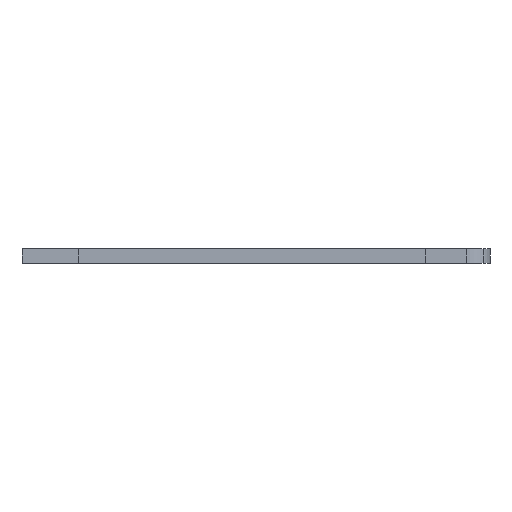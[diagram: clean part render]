
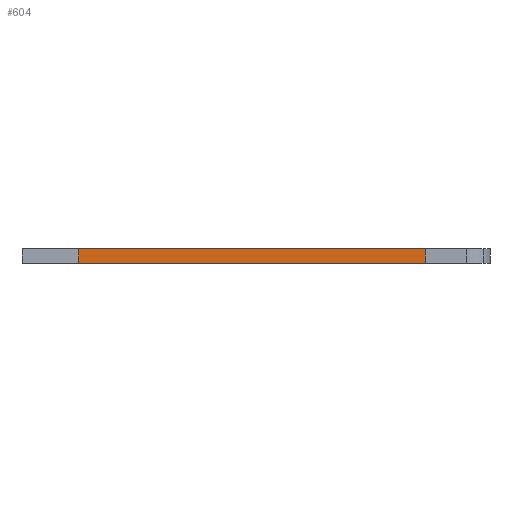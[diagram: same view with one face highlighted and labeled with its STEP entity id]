
A CAD part, left-side view. The second image highlights one B-rep face of the part: STEP entity #604.
In plain terms, the highlighted planar face has unit normal (-1, 0, 0).
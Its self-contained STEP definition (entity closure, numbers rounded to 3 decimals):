
#508=CARTESIAN_POINT('',(0.254,34.66,-1.219));
#509=VERTEX_POINT('',#508);
#518=CARTESIAN_POINT('',(0.254,34.66,0.0));
#519=VERTEX_POINT('',#518);
#520=CARTESIAN_POINT('',(0.254,34.66,0.0));
#521=DIRECTION('',(0.0,0.0,-1.0));
#522=VECTOR('',#521,1.219);
#523=LINE('',#520,#522);
#524=EDGE_CURVE('',#519,#509,#523,.T.);
#550=CARTESIAN_POINT('',(0.254,5.45,-1.219));
#551=VERTEX_POINT('',#550);
#566=CARTESIAN_POINT('',(0.254,5.45,0.0));
#567=VERTEX_POINT('',#566);
#574=CARTESIAN_POINT('',(0.254,5.45,0.0));
#575=DIRECTION('',(0.0,0.0,-1.0));
#576=VECTOR('',#575,1.219);
#577=LINE('',#574,#576);
#578=EDGE_CURVE('',#567,#551,#577,.T.);
#583=CARTESIAN_POINT('',(0.254,5.45,0.0));
#584=DIRECTION('',(1.0,0.0,0.0));
#585=DIRECTION('',(0.0,0.0,-1.0));
#586=AXIS2_PLACEMENT_3D('',#583,#584,#585);
#587=PLANE('',#586);
#588=CARTESIAN_POINT('',(0.254,5.45,-1.219));
#589=DIRECTION('',(0.0,1.0,0.0));
#590=VECTOR('',#589,29.21);
#591=LINE('',#588,#590);
#592=EDGE_CURVE('',#551,#509,#591,.T.);
#593=ORIENTED_EDGE('',*,*,#592,.F.);
#594=ORIENTED_EDGE('',*,*,#578,.F.);
#595=CARTESIAN_POINT('',(0.254,34.66,0.0));
#596=DIRECTION('',(0.0,-1.0,0.0));
#597=VECTOR('',#596,29.21);
#598=LINE('',#595,#597);
#599=EDGE_CURVE('',#519,#567,#598,.T.);
#600=ORIENTED_EDGE('',*,*,#599,.F.);
#601=ORIENTED_EDGE('',*,*,#524,.T.);
#602=EDGE_LOOP('',(#593,#594,#600,#601));
#603=FACE_OUTER_BOUND('',#602,.T.);
#604=ADVANCED_FACE('',(#603),#587,.F.);
